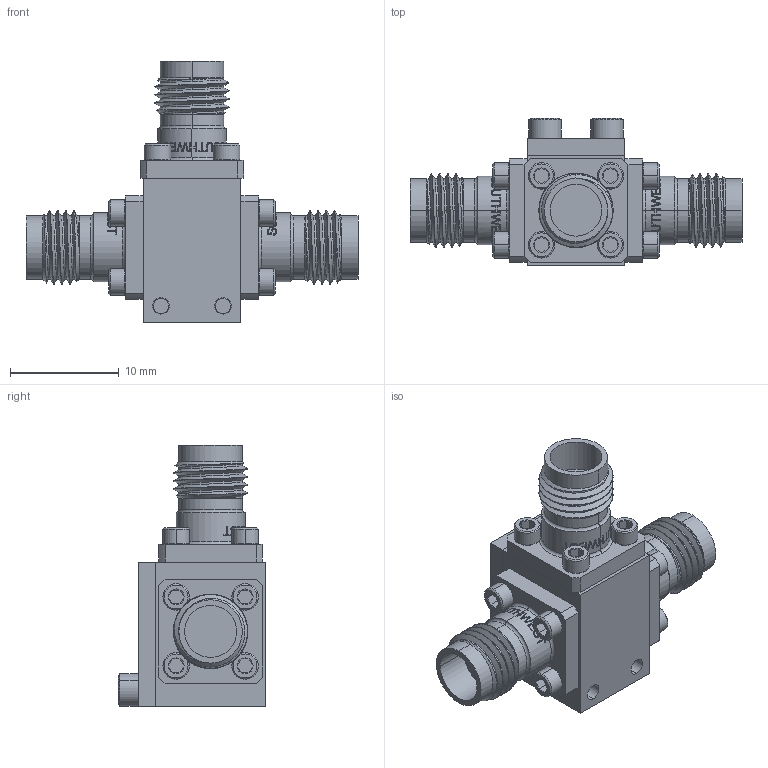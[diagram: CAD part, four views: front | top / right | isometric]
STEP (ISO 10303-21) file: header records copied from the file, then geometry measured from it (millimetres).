
FILE_DESCRIPTION (( 'STEP AP214' ), '1' );
FILE_NAME ('HL9465-JJJ.STEP', '2023-03-04T23:55:58', ( '' ), ( '' ), 'SwSTEP 2.0', 'SolidWorks 2023', '' );
FILE_SCHEMA (( 'AUTOMOTIVE_DESIGN' ));
Length unit declared in the file: millimetre
Products named in the file (6): 0-80x1-8_Socket Head Cap Screw_92196A052_18-8 Stainless Steel Socket Head Screw_92196A052; 100174_HPPI; 1-72x1-4_socket_head; 100173_HPPI; 2.40mm J 4H .375SQ; HL9465-JJJ
Assembly tree (19 placements, depth 2):
  HL9465-JJJ
    100173_HPPI
    100174_HPPI
    1-72x1-4_socket_head  x2
    2.40mm J 4H .375SQ  x3
    0-80x1-8_Socket Head Cap Screw_92196A052_18-8 Stainless Steel Socket Head Screw_92196A052  x12
Bounding box: 30.58 x 13.59 x 24.13 mm (x, y, z)
Volume: 2464.8 mm3; surface area: 3619.6 mm2
Topology: 19 solids, 19 shells, 1123 faces, 2811 edges, 1782 vertices
Faces by surface type: cylinder 422, plane 326, cone 219, bspline 114, torus 42
Entity records: 14622 total; most frequent: CARTESIAN_POINT 6741, ORIENTED_EDGE 1384, DIRECTION 1043, EDGE_CURVE 692, VERTEX_POINT 450, AXIS2_PLACEMENT_3D 422, EDGE_LOOP 316, FACE_OUTER_BOUND 264
